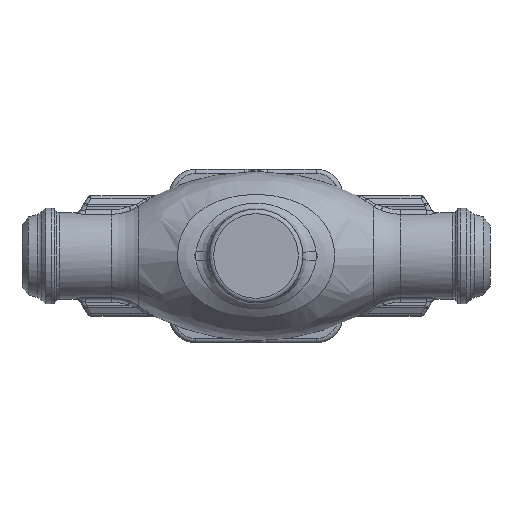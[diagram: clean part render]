
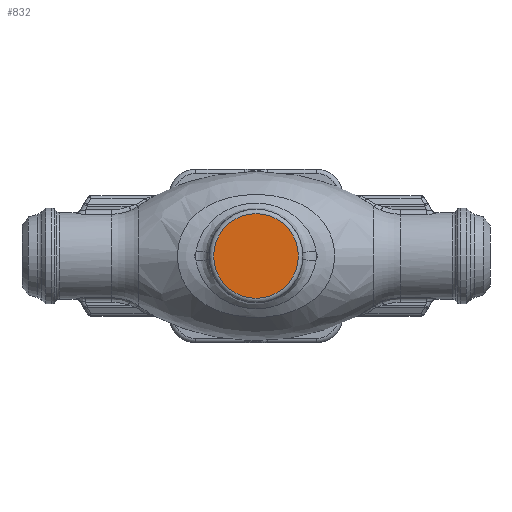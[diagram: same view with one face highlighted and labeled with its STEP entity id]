
A CAD part, front view. The second image highlights one B-rep face of the part: STEP entity #832.
In plain terms, the highlighted planar face has unit normal (0, -1, 0).
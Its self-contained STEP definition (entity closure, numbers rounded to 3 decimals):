
#222=PLANE('',#6693);
#374=FACE_OUTER_BOUND('',#1644,.T.);
#832=ADVANCED_FACE('',(#374),#222,.F.);
#1644=EDGE_LOOP('',(#3269));
#2227=CIRCLE('',#6692,19.);
#3269=ORIENTED_EDGE('',*,*,#5615,.T.);
#5034=VERTEX_POINT('',#10577);
#5615=EDGE_CURVE('',#5034,#5034,#2227,.T.);
#6692=AXIS2_PLACEMENT_3D('',#10576,#7615,#7616);
#6693=AXIS2_PLACEMENT_3D('',#10578,#7617,#7618);
#7615=DIRECTION('',(0.,-1.,0.));
#7616=DIRECTION('',(0.,0.,-1.));
#7617=DIRECTION('',(0.,1.,0.));
#7618=DIRECTION('',(0.,0.,-1.));
#10576=CARTESIAN_POINT('',(0.,-52.,0.));
#10577=CARTESIAN_POINT('',(0.,-52.,-19.));
#10578=CARTESIAN_POINT('',(0.,-52.,0.));
